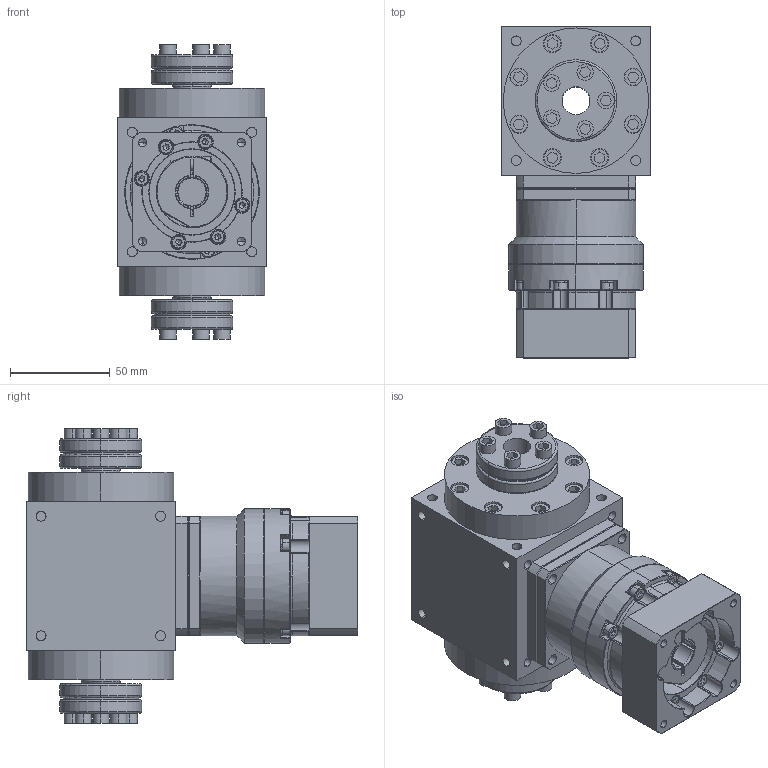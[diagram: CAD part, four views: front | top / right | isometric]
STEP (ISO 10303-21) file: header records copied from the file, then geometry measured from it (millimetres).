
FILE_DESCRIPTION (( 'STEP AP203' ), '1' );
FILE_NAME ('AT075-FC-L1 14-50-70-M5.STEP', '2024-12-24T09:14:03', ( '' ), ( '' ), 'SwSTEP 2.0', 'SolidWorks 2021', '' );
FILE_SCHEMA (( 'CONFIG_CONTROL_DESIGN' ));
Length unit declared in the file: millimetre
Products named in the file (3): VRB-060-L1-S2-P1 14-50-70-M5; AT075-FC_1; AT075-FC-L1 14-50-70-M5
Assembly tree (2 placements, depth 2):
  AT075-FC-L1 14-50-70-M5
    AT075-FC_1
    VRB-060-L1-S2-P1 14-50-70-M5
Bounding box: 75 x 166.5 x 148 mm (x, y, z)
Volume: 798088.3 mm3; surface area: 128014.3 mm2
Topology: 32 solids, 32 shells, 1436 faces, 3543 edges, 2235 vertices
Faces by surface type: plane 648, cylinder 518, cone 188, torus 70, bspline 12
Entity records: 44074 total; most frequent: CARTESIAN_POINT 9732, DIRECTION 7352, ORIENTED_EDGE 6990, EDGE_CURVE 3495, AXIS2_PLACEMENT_3D 2824, VERTEX_POINT 2235, VECTOR 1704, LINE 1704
